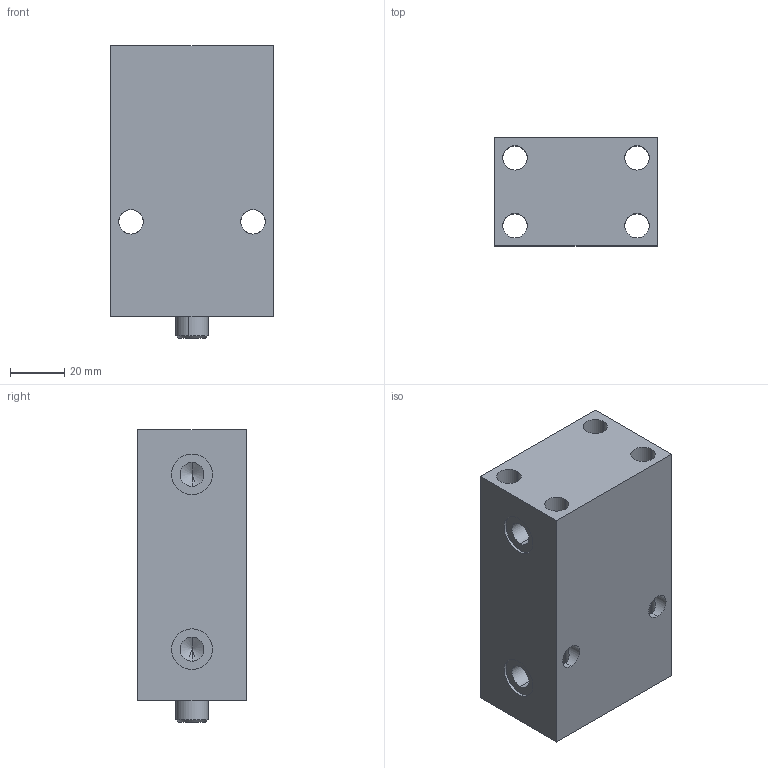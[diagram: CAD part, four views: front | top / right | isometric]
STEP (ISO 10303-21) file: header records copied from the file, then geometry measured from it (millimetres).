
FILE_DESCRIPTION (( 'STEP AP203' ), '1' );
FILE_NAME ('Block cylinder B01C-050F.STEP', '2022-07-09T18:25:27', ( '' ), ( '' ), 'SwSTEP 2.0', 'SolidWorks 2017', '' );
FILE_SCHEMA (( 'CONFIG_CONTROL_DESIGN' ));
Length unit declared in the file: millimetre
Products named in the file (3): Body_050F; Piston_050F; Block cylinder B01C-050F
Assembly tree (2 placements, depth 2):
  Block cylinder B01C-050F
    Body_050F
    Piston_050F
Bounding box: 60 x 40 x 108 mm (x, y, z)
Volume: 211710.6 mm3; surface area: 42067.7 mm2
Topology: 2 solids, 2 shells, 234 faces, 607 edges, 391 vertices
Faces by surface type: plane 99, bspline 83, cylinder 44, cone 8
Entity records: 12506 total; most frequent: CARTESIAN_POINT 7098, ORIENTED_EDGE 1202, DIRECTION 773, EDGE_CURVE 601, VERTEX_POINT 391, LINE 345, VECTOR 345, EDGE_LOOP 274
